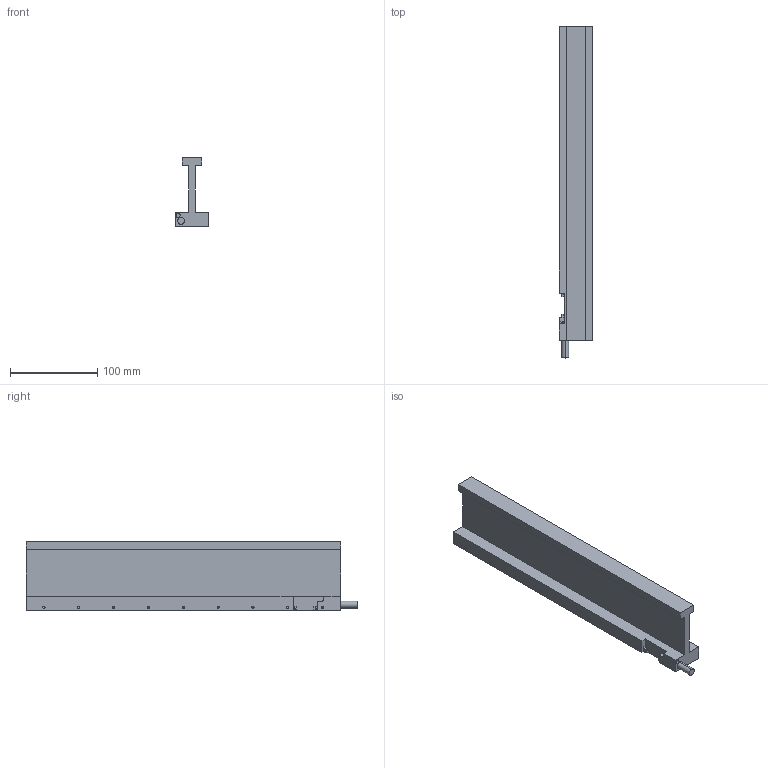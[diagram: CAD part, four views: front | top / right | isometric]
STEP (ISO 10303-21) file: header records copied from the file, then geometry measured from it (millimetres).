
FILE_DESCRIPTION (( 'STEP AP214' ), '1' );
FILE_NAME ('JKA46.STEP', '2025-09-05T08:44:50', ( '' ), ( '' ), 'SwSTEP 2.0', 'SolidWorks 2016', '' );
FILE_SCHEMA (( 'AUTOMOTIVE_DESIGN' ));
Length unit declared in the file: millimetre
Products named in the file (1): JKA46
Bounding box: 38 x 381 x 79 mm (x, y, z)
Volume: 432457.3 mm3; surface area: 100911.1 mm2
Topology: 1 solids, 1 shells, 208 faces, 529 edges, 280 vertices
Faces by surface type: cylinder 94, cone 86, plane 28
Entity records: 6616 total; most frequent: DIRECTION 1046, CARTESIAN_POINT 962, ORIENTED_EDGE 886, EDGE_CURVE 443, AXIS2_PLACEMENT_3D 396, VERTEX_POINT 280, VECTOR 254, LINE 254
